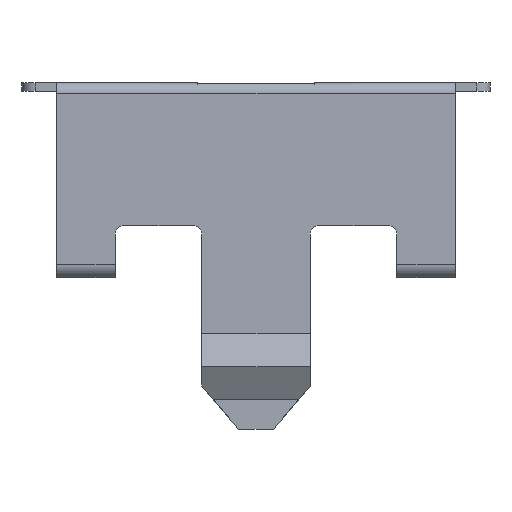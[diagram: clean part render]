
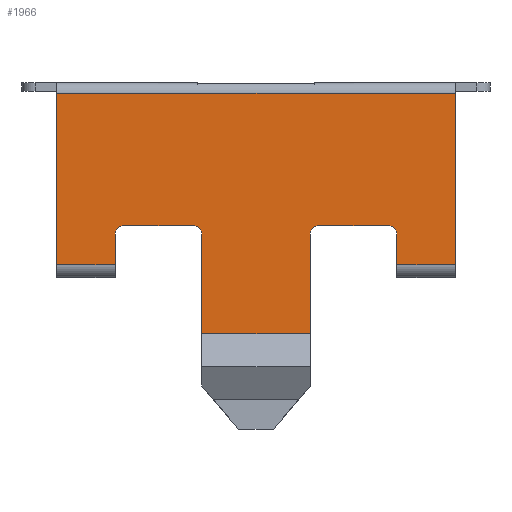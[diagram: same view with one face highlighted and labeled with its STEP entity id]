
A CAD part, left-side view. The second image highlights one B-rep face of the part: STEP entity #1966.
In plain terms, the highlighted planar face has unit normal (-1, 0, 0).
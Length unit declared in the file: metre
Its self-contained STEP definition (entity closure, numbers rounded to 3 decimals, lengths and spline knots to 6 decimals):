
#52=PLANE('',#2693);
#102=LINE('',#3334,#316);
#104=LINE('',#3343,#318);
#186=LINE('',#3576,#400);
#191=LINE('',#3590,#405);
#197=LINE('',#3606,#411);
#212=LINE('',#3637,#426);
#220=LINE('',#3656,#434);
#225=LINE('',#3670,#439);
#234=LINE('',#3686,#448);
#240=LINE('',#3704,#454);
#242=LINE('',#3710,#456);
#247=LINE('',#3718,#461);
#316=VECTOR('',#2797,1.);
#318=VECTOR('',#2805,1.);
#400=VECTOR('',#3017,1.);
#405=VECTOR('',#3030,1.);
#411=VECTOR('',#3044,1.);
#426=VECTOR('',#3065,1.);
#434=VECTOR('',#3083,1.);
#439=VECTOR('',#3096,1.);
#448=VECTOR('',#3117,1.);
#454=VECTOR('',#3135,1.);
#456=VECTOR('',#3141,1.);
#461=VECTOR('',#3148,1.);
#843=ORIENTED_EDGE('',*,*,#1287,.T.);
#844=ORIENTED_EDGE('',*,*,#1099,.T.);
#845=ORIENTED_EDGE('',*,*,#1244,.F.);
#846=ORIENTED_EDGE('',*,*,#1251,.F.);
#847=ORIENTED_EDGE('',*,*,#1254,.F.);
#848=ORIENTED_EDGE('',*,*,#1257,.F.);
#849=ORIENTED_EDGE('',*,*,#1261,.F.);
#850=ORIENTED_EDGE('',*,*,#1270,.T.);
#851=ORIENTED_EDGE('',*,*,#1229,.F.);
#852=ORIENTED_EDGE('',*,*,#1224,.F.);
#853=ORIENTED_EDGE('',*,*,#1221,.F.);
#854=ORIENTED_EDGE('',*,*,#1218,.F.);
#855=ORIENTED_EDGE('',*,*,#1214,.F.);
#856=ORIENTED_EDGE('',*,*,#1095,.T.);
#857=ORIENTED_EDGE('',*,*,#1282,.F.);
#858=ORIENTED_EDGE('',*,*,#1279,.T.);
#1095=EDGE_CURVE('',#1364,#1362,#102,.T.);
#1099=EDGE_CURVE('',#1368,#1366,#104,.T.);
#1214=EDGE_CURVE('',#1364,#1454,#186,.T.);
#1218=EDGE_CURVE('',#1454,#1457,#1567,.T.);
#1221=EDGE_CURVE('',#1457,#1459,#191,.T.);
#1224=EDGE_CURVE('',#1459,#1461,#1569,.T.);
#1229=EDGE_CURVE('',#1461,#1465,#197,.T.);
#1244=EDGE_CURVE('',#1478,#1366,#212,.T.);
#1251=EDGE_CURVE('',#1481,#1478,#1571,.T.);
#1254=EDGE_CURVE('',#1483,#1481,#220,.T.);
#1257=EDGE_CURVE('',#1485,#1483,#1573,.T.);
#1261=EDGE_CURVE('',#1488,#1485,#225,.T.);
#1270=EDGE_CURVE('',#1488,#1465,#234,.T.);
#1279=EDGE_CURVE('',#1496,#1495,#240,.T.);
#1282=EDGE_CURVE('',#1496,#1362,#242,.T.);
#1287=EDGE_CURVE('',#1495,#1368,#247,.T.);
#1362=VERTEX_POINT('',#3332);
#1364=VERTEX_POINT('',#3335);
#1366=VERTEX_POINT('',#3341);
#1368=VERTEX_POINT('',#3344);
#1454=VERTEX_POINT('',#3577);
#1457=VERTEX_POINT('',#3585);
#1459=VERTEX_POINT('',#3591);
#1461=VERTEX_POINT('',#3597);
#1465=VERTEX_POINT('',#3607);
#1478=VERTEX_POINT('',#3638);
#1481=VERTEX_POINT('',#3649);
#1483=VERTEX_POINT('',#3655);
#1485=VERTEX_POINT('',#3661);
#1488=VERTEX_POINT('',#3669);
#1495=VERTEX_POINT('',#3703);
#1496=VERTEX_POINT('',#3705);
#1567=CIRCLE('',#2661,0.0002);
#1569=CIRCLE('',#2665,0.0002);
#1571=CIRCLE('',#2673,0.0002);
#1573=CIRCLE('',#2677,0.0002);
#1652=EDGE_LOOP('',(#843,#844,#845,#846,#847,#848,#849,#850,#851,#852,#853,
#854,#855,#856,#857,#858));
#1746=FACE_BOUND('',#1652,.T.);
#1966=ADVANCED_FACE('',(#1746),#52,.T.);
#2661=AXIS2_PLACEMENT_3D('',#3584,#3024,#3025);
#2665=AXIS2_PLACEMENT_3D('',#3596,#3036,#3037);
#2673=AXIS2_PLACEMENT_3D('',#3650,#3077,#3078);
#2677=AXIS2_PLACEMENT_3D('',#3662,#3089,#3090);
#2693=AXIS2_PLACEMENT_3D('',#3717,#3146,#3147);
#2797=DIRECTION('',(0.,-1.,0.));
#2805=DIRECTION('',(0.,-1.,0.));
#3017=DIRECTION('',(0.,0.,1.));
#3024=DIRECTION('',(-1.,0.,0.));
#3025=DIRECTION('',(0.,0.,1.));
#3030=DIRECTION('',(0.,1.,0.));
#3036=DIRECTION('',(-1.,0.,0.));
#3037=DIRECTION('',(0.,0.,1.));
#3044=DIRECTION('',(0.,0.,-1.));
#3065=DIRECTION('',(0.,0.,-1.));
#3077=DIRECTION('',(-1.,0.,0.));
#3078=DIRECTION('',(0.,0.,1.));
#3083=DIRECTION('',(0.,1.,0.));
#3089=DIRECTION('',(-1.,0.,0.));
#3090=DIRECTION('',(0.,0.,1.));
#3096=DIRECTION('',(0.,0.,1.));
#3117=DIRECTION('',(0.,-1.,0.));
#3135=DIRECTION('',(0.,1.,0.));
#3141=DIRECTION('',(0.,0.,-1.));
#3146=DIRECTION('',(-1.,0.,0.));
#3147=DIRECTION('',(0.,0.,1.));
#3148=DIRECTION('',(0.,0.,-1.));
#3332=CARTESIAN_POINT('',(-0.08387,-0.059756,0.0098));
#3334=CARTESIAN_POINT('',(-0.08387,-0.059756,0.0098));
#3335=CARTESIAN_POINT('',(-0.08387,-0.058406,0.0098));
#3341=CARTESIAN_POINT('',(-0.08387,-0.051906,0.0098));
#3343=CARTESIAN_POINT('',(-0.08387,-0.051906,0.0098));
#3344=CARTESIAN_POINT('',(-0.08387,-0.050556,0.0098));
#3576=CARTESIAN_POINT('',(-0.08387,-0.058406,0.01375));
#3577=CARTESIAN_POINT('',(-0.08387,-0.058406,0.0105));
#3584=CARTESIAN_POINT('',(-0.08387,-0.058206,0.0105));
#3585=CARTESIAN_POINT('',(-0.08387,-0.058206,0.0107));
#3590=CARTESIAN_POINT('',(-0.08387,-0.050556,0.0107));
#3591=CARTESIAN_POINT('',(-0.08387,-0.056606,0.0107));
#3596=CARTESIAN_POINT('',(-0.08387,-0.056606,0.0105));
#3597=CARTESIAN_POINT('',(-0.08387,-0.056406,0.0105));
#3606=CARTESIAN_POINT('',(-0.08387,-0.056406,0.01375));
#3607=CARTESIAN_POINT('',(-0.08387,-0.056406,0.008209));
#3637=CARTESIAN_POINT('',(-0.08387,-0.051906,0.01375));
#3638=CARTESIAN_POINT('',(-0.08387,-0.051906,0.0105));
#3649=CARTESIAN_POINT('',(-0.08387,-0.052106,0.0107));
#3650=CARTESIAN_POINT('',(-0.08387,-0.052106,0.0105));
#3655=CARTESIAN_POINT('',(-0.08387,-0.053706,0.0107));
#3656=CARTESIAN_POINT('',(-0.08387,-0.050556,0.0107));
#3661=CARTESIAN_POINT('',(-0.08387,-0.053906,0.0105));
#3662=CARTESIAN_POINT('',(-0.08387,-0.053706,0.0105));
#3669=CARTESIAN_POINT('',(-0.08387,-0.053906,0.008209));
#3670=CARTESIAN_POINT('',(-0.08387,-0.053906,0.01375));
#3686=CARTESIAN_POINT('',(-0.08387,-0.050556,0.008209));
#3703=CARTESIAN_POINT('',(-0.08387,-0.050556,0.01375));
#3704=CARTESIAN_POINT('',(-0.08387,-0.050556,0.01375));
#3705=CARTESIAN_POINT('',(-0.08387,-0.059756,0.01375));
#3710=CARTESIAN_POINT('',(-0.08387,-0.059756,0.01375));
#3717=CARTESIAN_POINT('',(-0.08387,-0.050556,0.01375));
#3718=CARTESIAN_POINT('',(-0.08387,-0.050556,0.01375));
